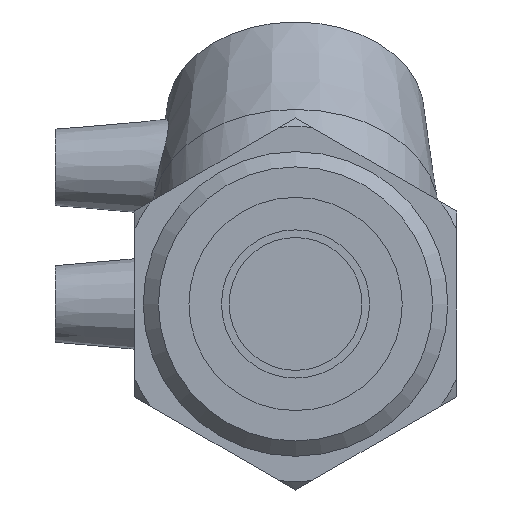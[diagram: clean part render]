
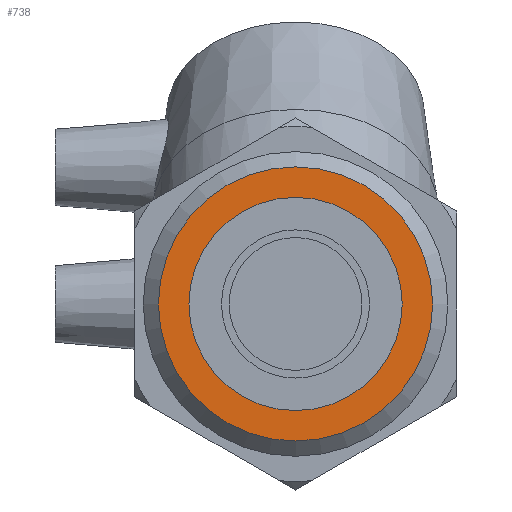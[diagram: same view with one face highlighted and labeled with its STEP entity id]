
A CAD part, left-side view. The second image highlights one B-rep face of the part: STEP entity #738.
In plain terms, the highlighted planar face has unit normal (-1, 0, 0).
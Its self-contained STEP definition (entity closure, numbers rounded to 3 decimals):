
#94=PLANE('',#803);
#119=FACE_BOUND('',#218,.T.);
#157=FACE_OUTER_BOUND('',#217,.T.);
#217=EDGE_LOOP('',(#532));
#218=EDGE_LOOP('',(#533));
#312=CIRCLE('',#801,26.826);
#314=CIRCLE('',#804,20.865);
#361=VERTEX_POINT('',#1146);
#363=VERTEX_POINT('',#1151);
#436=EDGE_CURVE('',#361,#361,#312,.T.);
#438=EDGE_CURVE('',#363,#363,#314,.T.);
#532=ORIENTED_EDGE('',*,*,#436,.F.);
#533=ORIENTED_EDGE('',*,*,#438,.T.);
#738=ADVANCED_FACE('',(#157,#119),#94,.T.);
#801=AXIS2_PLACEMENT_3D('',#1147,#912,#913);
#803=AXIS2_PLACEMENT_3D('',#1150,#916,#917);
#804=AXIS2_PLACEMENT_3D('',#1152,#918,#919);
#912=DIRECTION('center_axis',(1.,0.,0.));
#913=DIRECTION('ref_axis',(0.,0.,1.));
#916=DIRECTION('center_axis',(-1.,0.,0.));
#917=DIRECTION('ref_axis',(0.,0.,1.));
#918=DIRECTION('center_axis',(1.,0.,0.));
#919=DIRECTION('ref_axis',(0.,0.,-1.));
#1146=CARTESIAN_POINT('',(-93.827,0.,-26.826));
#1147=CARTESIAN_POINT('Origin',(-93.827,0.,0.));
#1150=CARTESIAN_POINT('Origin',(-93.827,0.,-29.807));
#1151=CARTESIAN_POINT('',(-93.827,0.,-20.865));
#1152=CARTESIAN_POINT('Origin',(-93.827,0.,0.));
